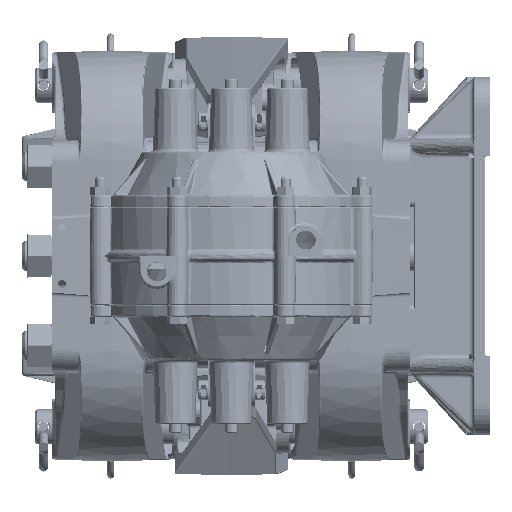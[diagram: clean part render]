
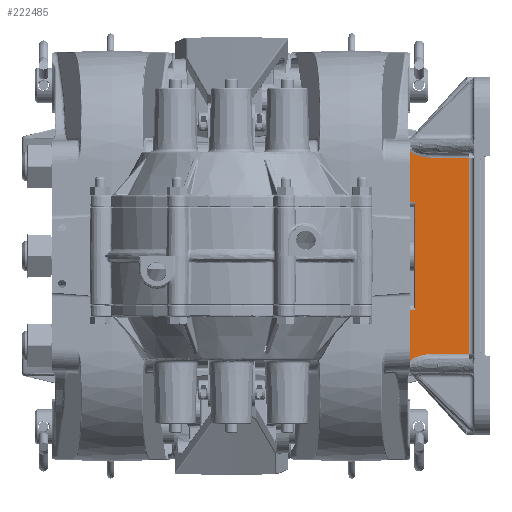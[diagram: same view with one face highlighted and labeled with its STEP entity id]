
A CAD part, left-side view. The second image highlights one B-rep face of the part: STEP entity #222485.
In plain terms, the highlighted planar face has unit normal (-1, 0.009, 0).
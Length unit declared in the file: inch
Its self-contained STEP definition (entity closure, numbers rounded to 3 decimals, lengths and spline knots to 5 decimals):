
#7478 = CARTESIAN_POINT ( 'NONE',  ( -4.92462, -4.63193, 2.54413 ) ) ;
#9057 = CARTESIAN_POINT ( 'NONE',  ( -4.92537, -4.71847, -2.51036 ) ) ;
#13031 = ORIENTED_EDGE ( 'NONE', *, *, #201999, .F. ) ;
#13893 = ORIENTED_EDGE ( 'NONE', *, *, #21623, .F. ) ;
#21623 = EDGE_CURVE ( 'NONE', #171060, #168560, #146583, .T. ) ;
#22476 = EDGE_CURVE ( 'NONE', #83208, #247213, #64278, .T. ) ;
#27044 = VECTOR ( 'NONE', #171415, 39.37008 ) ;
#27772 = EDGE_CURVE ( 'NONE', #94628, #255330, #135848, .T. ) ;
#29152 = CARTESIAN_POINT ( 'NONE',  ( -4.92408, -4.57082, 2.5778 ) ) ;
#29280 = DIRECTION ( 'NONE',  ( -1., 0.009, 0. ) ) ;
#29506 = ORIENTED_EDGE ( 'NONE', *, *, #211092, .T. ) ;
#30760 = CARTESIAN_POINT ( 'NONE',  ( -4.92635, -4.83037, -2.48187 ) ) ;
#31412 = VECTOR ( 'NONE', #208666, 39.37008 ) ;
#32232 = CARTESIAN_POINT ( 'NONE',  ( -4.92347, -4.5, 2.63736 ) ) ;
#37078 = CARTESIAN_POINT ( 'NONE',  ( -4.92347, -4.5, 0. ) ) ;
#49997 = CARTESIAN_POINT ( 'NONE',  ( -4.92795, -5.01392, 2.46579 ) ) ;
#50138 = PLANE ( 'NONE',  #280844 ) ;
#50937 = CARTESIAN_POINT ( 'NONE',  ( -4.92376, -4.53372, 2.60531 ) ) ;
#51629 = CARTESIAN_POINT ( 'NONE',  ( -4.92353, -4.50788, -2.62873 ) ) ;
#52518 = CARTESIAN_POINT ( 'NONE',  ( -4.92755, -4.96748, -2.4662 ) ) ;
#56422 = EDGE_CURVE ( 'NONE', #247213, #152435, #247487, .T. ) ;
#57910 = VECTOR ( 'NONE', #213915, 39.37008 ) ;
#64278 = LINE ( 'NONE', #88878, #115143 ) ;
#72718 = CARTESIAN_POINT ( 'NONE',  ( -4.92353, -4.50788, 2.62873 ) ) ;
#73136 = CARTESIAN_POINT ( 'NONE',  ( -4.93635, -5.97609, 2.4574 ) ) ;
#73391 = CARTESIAN_POINT ( 'NONE',  ( -4.92376, -4.53372, -2.60531 ) ) ;
#74371 = VERTEX_POINT ( 'NONE', #83486 ) ;
#77491 = ORIENTED_EDGE ( 'NONE', *, *, #56422, .T. ) ;
#77910 = DIRECTION ( 'NONE',  ( -0.009, -1., 0.009 ) ) ;
#78267 = VECTOR ( 'NONE', #96685, 39.37008 ) ;
#83208 = VERTEX_POINT ( 'NONE', #73136 ) ;
#83486 = CARTESIAN_POINT ( 'NONE',  ( -4.92347, -4.5, 1.365 ) ) ;
#85527 = ORIENTED_EDGE ( 'NONE', *, *, #22476, .T. ) ;
#88878 = CARTESIAN_POINT ( 'NONE',  ( -4.92614, -4.80692, 2.4676 ) ) ;
#93572 = CARTESIAN_POINT ( 'NONE',  ( -4.92635, -4.83037, 2.48187 ) ) ;
#94628 = VERTEX_POINT ( 'NONE', #123638 ) ;
#94645 = EDGE_CURVE ( 'NONE', #134970, #83208, #164889, .T. ) ;
#95204 = CARTESIAN_POINT ( 'NONE',  ( -4.92408, -4.57082, -2.5778 ) ) ;
#96685 = DIRECTION ( 'NONE',  ( 0., 0., -1. ) ) ;
#98968 = CARTESIAN_POINT ( 'NONE',  ( -4.92347, -4.5, -1.365 ) ) ;
#106630 = ORIENTED_EDGE ( 'NONE', *, *, #274701, .F. ) ;
#115143 = VECTOR ( 'NONE', #131498, 39.37008 ) ;
#115330 = FACE_OUTER_BOUND ( 'NONE', #214205, .T. ) ;
#115349 = CARTESIAN_POINT ( 'NONE',  ( -4.92537, -4.71847, 2.51036 ) ) ;
#115577 = LINE ( 'NONE', #278288, #57910 ) ;
#116954 = CARTESIAN_POINT ( 'NONE',  ( -4.92462, -4.63193, -2.54413 ) ) ;
#119163 = ORIENTED_EDGE ( 'NONE', *, *, #134751, .T. ) ;
#123638 = CARTESIAN_POINT ( 'NONE',  ( -4.92451, -4.61983, 1.365 ) ) ;
#131498 = DIRECTION ( 'NONE',  ( 0.009, 1., 0.009 ) ) ;
#134751 = EDGE_CURVE ( 'NONE', #74371, #94628, #142226, .T. ) ;
#134970 = VERTEX_POINT ( 'NONE', #188233 ) ;
#135848 = LINE ( 'NONE', #248170, #78267 ) ;
#137048 = CARTESIAN_POINT ( 'NONE',  ( -4.9248, -4.65311, 2.53465 ) ) ;
#138691 = CARTESIAN_POINT ( 'NONE',  ( -4.92518, -4.69634, -2.51777 ) ) ;
#142226 = LINE ( 'NONE', #237751, #27044 ) ;
#144133 = VERTEX_POINT ( 'NONE', #186355 ) ;
#146583 = LINE ( 'NONE', #165076, #31412 ) ;
#148223 = CARTESIAN_POINT ( 'NONE',  ( -4.92451, -4.61983, -1.365 ) ) ;
#149183 = LINE ( 'NONE', #37078, #264289 ) ;
#152435 = VERTEX_POINT ( 'NONE', #32232 ) ;
#153645 = ORIENTED_EDGE ( 'NONE', *, *, #27772, .T. ) ;
#156602 = ORIENTED_EDGE ( 'NONE', *, *, #177916, .T. ) ;
#158830 = CARTESIAN_POINT ( 'NONE',  ( -4.92426, -4.59069, 2.56575 ) ) ;
#158981 = CARTESIAN_POINT ( 'NONE',  ( -4.93874, -6.25, 0. ) ) ;
#159495 = CARTESIAN_POINT ( 'NONE',  ( -4.92347, -4.5, -2.63736 ) ) ;
#160406 = CARTESIAN_POINT ( 'NONE',  ( -4.92596, -4.78527, -2.49103 ) ) ;
#164889 = LINE ( 'NONE', #233471, #215735 ) ;
#165076 = CARTESIAN_POINT ( 'NONE',  ( -4.92347, -4.5, 0. ) ) ;
#168560 = VERTEX_POINT ( 'NONE', #98968 ) ;
#171060 = VERTEX_POINT ( 'NONE', #216990 ) ;
#171099 = CARTESIAN_POINT ( 'NONE',  ( -4.92795, -5.01392, 2.46579 ) ) ;
#171415 = DIRECTION ( 'NONE',  ( -0.009, -1., 0. ) ) ;
#177916 = EDGE_CURVE ( 'NONE', #171060, #144133, #220412, .T. ) ;
#180565 = CARTESIAN_POINT ( 'NONE',  ( -4.92384, -4.54279, 2.59814 ) ) ;
#180710 = DIRECTION ( 'NONE',  ( -0.009, -1., 0. ) ) ;
#182195 = CARTESIAN_POINT ( 'NONE',  ( -4.92714, -4.92148, -2.46944 ) ) ;
#186355 = CARTESIAN_POINT ( 'NONE',  ( -4.92795, -5.01392, -2.46579 ) ) ;
#188233 = CARTESIAN_POINT ( 'NONE',  ( -4.93635, -5.97609, -2.4574 ) ) ;
#188545 = DIRECTION ( 'NONE',  ( 0., 0., 1. ) ) ;
#197965 = LINE ( 'NONE', #207619, #248763 ) ;
#199605 = CARTESIAN_POINT ( 'NONE',  ( -4.92755, -4.96748, 2.4662 ) ) ;
#201999 = EDGE_CURVE ( 'NONE', #74371, #152435, #149183, .T. ) ;
#202392 = CARTESIAN_POINT ( 'NONE',  ( -4.92361, -4.51629, 2.62058 ) ) ;
#203063 = CARTESIAN_POINT ( 'NONE',  ( -4.92361, -4.51629, -2.62058 ) ) ;
#203982 = CARTESIAN_POINT ( 'NONE',  ( -4.92795, -5.01392, -2.46579 ) ) ;
#207619 = CARTESIAN_POINT ( 'NONE',  ( -4.93742, -6.09891, -2.45632 ) ) ;
#208666 = DIRECTION ( 'NONE',  ( 0., 0., 1. ) ) ;
#211092 = EDGE_CURVE ( 'NONE', #144133, #134970, #197965, .T. ) ;
#213915 = DIRECTION ( 'NONE',  ( -0.009, -1., 0. ) ) ;
#214205 = EDGE_LOOP ( 'NONE', ( #13893, #156602, #29506, #214546, #85527, #77491, #13031, #119163, #153645, #106630 ) ) ;
#214546 = ORIENTED_EDGE ( 'NONE', *, *, #94645, .T. ) ;
#215735 = VECTOR ( 'NONE', #255217, 39.37008 ) ;
#216990 = CARTESIAN_POINT ( 'NONE',  ( -4.92347, -4.5, -2.63736 ) ) ;
#220412 = B_SPLINE_CURVE_WITH_KNOTS ( 'NONE', 3,
 ( #159495, #51629, #203063, #73391, #224874, #95204, #246649, #116954, #268381, #138691, #9057, #160406, #30760, #182195, #52518, #203982 ),
 .UNSPECIFIED., .F., .F.,
 ( 4, 2, 2, 2, 2, 2, 2, 4 ),
 ( 0.00081, 0.0017, 0.00259, 0.00437, 0.00615, 0.00792, 0.01148, 0.01504 ),
 .UNSPECIFIED. ) ;
#222485 = ADVANCED_FACE ( 'NONE', ( #115330 ), #50138, .T. ) ;
#223275 = CARTESIAN_POINT ( 'NONE',  ( -4.92714, -4.92148, 2.46944 ) ) ;
#224209 = CARTESIAN_POINT ( 'NONE',  ( -4.92347, -4.5, 2.63736 ) ) ;
#224874 = CARTESIAN_POINT ( 'NONE',  ( -4.92384, -4.54279, -2.59814 ) ) ;
#233471 = CARTESIAN_POINT ( 'NONE',  ( -4.93635, -5.97609, 0. ) ) ;
#237751 = CARTESIAN_POINT ( 'NONE',  ( -4.93874, -6.25, 1.365 ) ) ;
#245002 = CARTESIAN_POINT ( 'NONE',  ( -4.92596, -4.78527, 2.49103 ) ) ;
#246649 = CARTESIAN_POINT ( 'NONE',  ( -4.92426, -4.59069, -2.56575 ) ) ;
#247213 = VERTEX_POINT ( 'NONE', #171099 ) ;
#247487 = B_SPLINE_CURVE_WITH_KNOTS ( 'NONE', 3,
 ( #49997, #199605, #223275, #93572, #245002, #115349, #266770, #137048, #7478, #158830, #29152, #180565, #50937, #202392, #72718, #224209 ),
 .UNSPECIFIED., .F., .F.,
 ( 4, 2, 2, 2, 2, 2, 2, 4 ),
 ( 0., 0.0035, 0.00701, 0.00876, 0.01051, 0.01226, 0.01314, 0.01401 ),
 .UNSPECIFIED. ) ;
#248170 = CARTESIAN_POINT ( 'NONE',  ( -4.92451, -4.61983, -1.365 ) ) ;
#248763 = VECTOR ( 'NONE', #77910, 39.37008 ) ;
#255217 = DIRECTION ( 'NONE',  ( 0., 0., 1. ) ) ;
#255330 = VERTEX_POINT ( 'NONE', #148223 ) ;
#264289 = VECTOR ( 'NONE', #188545, 39.37008 ) ;
#266770 = CARTESIAN_POINT ( 'NONE',  ( -4.92518, -4.69634, 2.51777 ) ) ;
#268381 = CARTESIAN_POINT ( 'NONE',  ( -4.9248, -4.65311, -2.53465 ) ) ;
#274701 = EDGE_CURVE ( 'NONE', #168560, #255330, #115577, .T. ) ;
#278288 = CARTESIAN_POINT ( 'NONE',  ( -4.93874, -6.25, -1.365 ) ) ;
#280844 = AXIS2_PLACEMENT_3D ( 'NONE', #158981, #29280, #180710 ) ;
